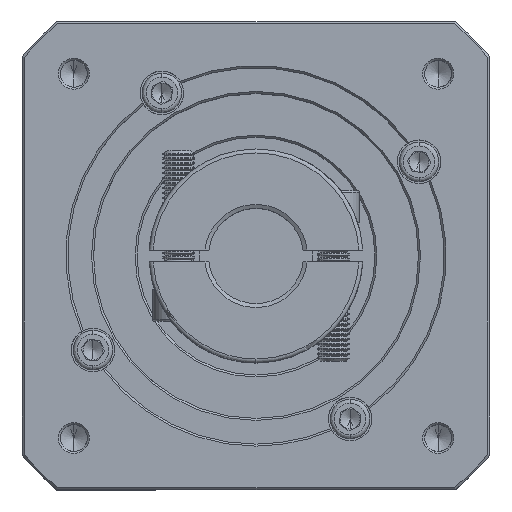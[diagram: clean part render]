
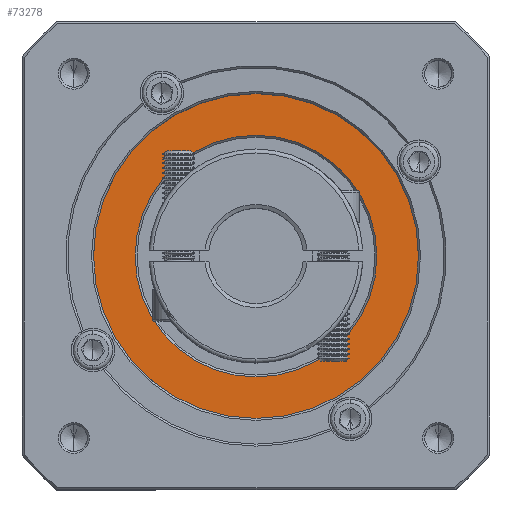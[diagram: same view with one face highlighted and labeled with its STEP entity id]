
A CAD part, top view. The second image highlights one B-rep face of the part: STEP entity #73278.
In plain terms, the highlighted planar face has unit normal (0, 0, 1).
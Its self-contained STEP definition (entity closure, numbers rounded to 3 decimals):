
#4561 = DIRECTION ( 'NONE',  ( 0., 0., 1. ) ) ;
#5380 = PLANE ( 'NONE',  #22658 ) ;
#22658 = AXIS2_PLACEMENT_3D ( 'NONE', #103262, #70318, #93873 ) ;
#25040 = AXIS2_PLACEMENT_3D ( 'NONE', #106163, #73650, #106620 ) ;
#38747 = FACE_OUTER_BOUND ( 'NONE', #111925, .T. ) ;
#40421 = CIRCLE ( 'NONE', #25040, 30.5 ) ;
#44506 = AXIS2_PLACEMENT_3D ( 'NONE', #58699, #4561, #69993 ) ;
#45602 = DIRECTION ( 'NONE',  ( -1., 0., 0. ) ) ;
#50125 = VERTEX_POINT ( 'NONE', #130113 ) ;
#53616 = AXIS2_PLACEMENT_3D ( 'NONE', #110068, #77631, #45602 ) ;
#58699 = CARTESIAN_POINT ( 'NONE',  ( 49.054, 59.884, -31.658 ) ) ;
#60776 = CIRCLE ( 'NONE', #53616, 30.5 ) ;
#62095 = EDGE_LOOP ( 'NONE', ( #94595, #124950 ) ) ;
#63976 = FACE_BOUND ( 'NONE', #62095, .T. ) ;
#69965 = CARTESIAN_POINT ( 'NONE',  ( 79.554, 59.884, -31.658 ) ) ;
#69993 = DIRECTION ( 'NONE',  ( 0., -1., 0. ) ) ;
#70318 = DIRECTION ( 'NONE',  ( 0., 0., 1. ) ) ;
#73278 = ADVANCED_FACE ( 'NONE', ( #38747, #63976 ), #5380, .T. ) ;
#73650 = DIRECTION ( 'NONE',  ( 0., 0., -1. ) ) ;
#77631 = DIRECTION ( 'NONE',  ( 0., 0., -1. ) ) ;
#79137 = VERTEX_POINT ( 'NONE', #100801 ) ;
#80283 = ORIENTED_EDGE ( 'NONE', *, *, #135782, .T. ) ;
#81617 = EDGE_CURVE ( 'NONE', #120281, #50125, #60776, .T. ) ;
#83788 = CIRCLE ( 'NONE', #44506, 41. ) ;
#89335 = DIRECTION ( 'NONE',  ( 0., -1., 0. ) ) ;
#90594 = ORIENTED_EDGE ( 'NONE', *, *, #123738, .T. ) ;
#93631 = EDGE_CURVE ( 'NONE', #50125, #120281, #40421, .T. ) ;
#93873 = DIRECTION ( 'NONE',  ( 0., -1., 0. ) ) ;
#94595 = ORIENTED_EDGE ( 'NONE', *, *, #93631, .T. ) ;
#97486 = VERTEX_POINT ( 'NONE', #111824 ) ;
#100801 = CARTESIAN_POINT ( 'NONE',  ( 49.054, 100.884, -31.658 ) ) ;
#103262 = CARTESIAN_POINT ( 'NONE',  ( 49.054, 59.884, -31.658 ) ) ;
#106163 = CARTESIAN_POINT ( 'NONE',  ( 49.054, 59.884, -31.658 ) ) ;
#106620 = DIRECTION ( 'NONE',  ( -1., 0., 0. ) ) ;
#110068 = CARTESIAN_POINT ( 'NONE',  ( 49.054, 59.884, -31.658 ) ) ;
#111824 = CARTESIAN_POINT ( 'NONE',  ( 49.054, 18.884, -31.658 ) ) ;
#111925 = EDGE_LOOP ( 'NONE', ( #80283, #90594 ) ) ;
#120281 = VERTEX_POINT ( 'NONE', #69965 ) ;
#121860 = AXIS2_PLACEMENT_3D ( 'NONE', #132564, #133963, #89335 ) ;
#123738 = EDGE_CURVE ( 'NONE', #79137, #97486, #137360, .T. ) ;
#124950 = ORIENTED_EDGE ( 'NONE', *, *, #81617, .T. ) ;
#130113 = CARTESIAN_POINT ( 'NONE',  ( 18.554, 59.884, -31.658 ) ) ;
#132564 = CARTESIAN_POINT ( 'NONE',  ( 49.054, 59.884, -31.658 ) ) ;
#133963 = DIRECTION ( 'NONE',  ( 0., 0., 1. ) ) ;
#135782 = EDGE_CURVE ( 'NONE', #97486, #79137, #83788, .T. ) ;
#137360 = CIRCLE ( 'NONE', #121860, 41. ) ;
